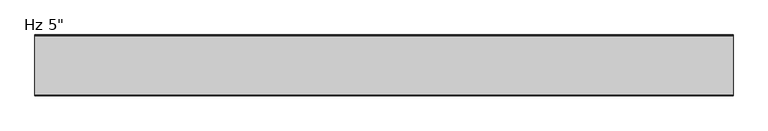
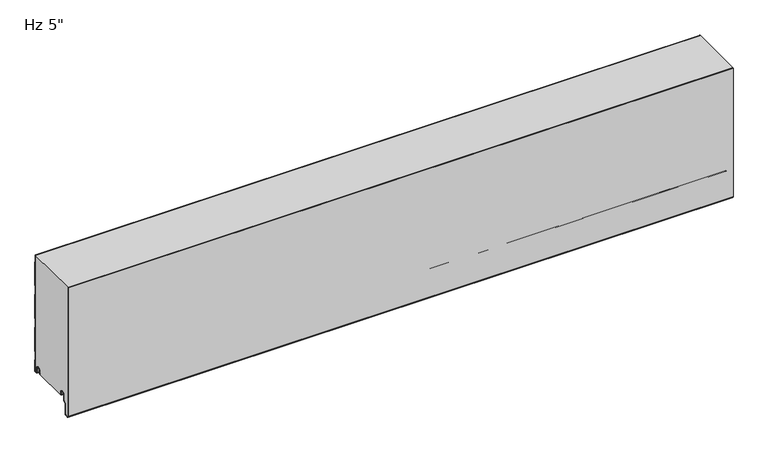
"""IFC4 building model written with IfcOpenShell, lengths in millimetres: plate geometry."""

from ifc_helpers import new_model, si_unit, point, frame, frame_2d, origin, place, context, project, spatial, polyline, circle_curve, trimmed, segment, composite_curve, outline, extrude, source, transform, mapped, element, save
from ifc_brep_helpers import plane_surface, cylinder_surface, revolved_surface, advanced_brep


def plate_81779ee4(model_context):
    return source(origin(), model_context, "Body", "SolidModel", [
        advanced_brep(
        [(-730.0, -17.0015159, 2.0313088), (-730.0, -18.0015191, 1.0313116), (-730.0, -19.0015105, 2.0313088), (-730.0, -19.0015105, 6.0315125), (-730.0, -18.0015159, 6.0315125), (-730.0, -18.0015159, 8.7237223), (-730.0, -14.7015202, 12.023718), (-730.0, -10.301529, 12.023718), (-730.0, -7.0015335, 8.7237225), (-730.0, -7.0015335, -1.6962564), (-730.0, -5.2315393, -3.4662506), (-730.0, -0.9999916, -3.4662506), (-730.0, -0.9999916, 21.034026), (-730.0, -2.2002307, 22.4196686), (-730.0, -2.2002307, 41.7948349), (-730.0, -1.0, 43.1804679), (-730.0, -1.0, 97.2338833), (-730.0, -2.2002307, 98.6195162), (-730.0, -2.2002307, 117.9946825), (-730.0, -1.0, 119.3803155), (-730.0, -1.0, 173.4337309), (-730.0, -2.2002307, 174.8193638), (-730.0, -2.2002307, 194.1945301), (-730.0, -1.0, 195.5801631), (-730.0, -1.0, 249.6335785), (-730.0, -2.2002307, 251.0192114), (-730.0, -2.2002307, 266.4), (-730.0, -1.2002307, 266.4), (-730.0, -1.2002307, 251.3920919), (-730.0, -0.3417885, 250.4010442), (-730.0, 0.0, 249.4844273), (-730.0, 0.0, 195.7293142), (-730.0, -0.3417885, 194.8126973), (-730.0, -1.2002307, 193.8216497), (-730.0, -1.2002307, 175.1922443), (-730.0, -0.3417885, 174.2011966), (-730.0, 0.0, 173.2845797), (-730.0, 0.0, 119.5294666), (-730.0, -0.3417885, 118.6128497), (-730.0, -1.2002307, 117.6218021), (-730.0, -1.2002307, 98.9923967), (-730.0, -0.3417885, 98.001349), (-730.0, 0.0, 97.0847321), (-730.0, 0.0, 43.329619), (-730.0, -0.3417885, 42.4130021), (-730.0, -1.2002307, 41.4219545), (-730.0, -1.2002307, 22.7925491), (-730.0, -0.3417885, 21.8015014), (-730.0, 0.0, 20.8847931), (-730.0, 8.4e-06, -3.0662545), (-730.0, -1.3999878, -4.4662506), (-730.0, -5.2315393, -4.4662506), (-730.0, -8.0015335, -1.6962564), (-730.0, -8.0015335, 8.7237225), (-730.0, -10.301529, 11.023718), (-730.0, -14.7015202, 11.023718), (-730.0, -17.0015159, 8.7237223), (730.0, -17.0015159, 2.0313088), (730.0, -17.0015159, 8.7237223), (730.0, -14.7015202, 11.023718), (730.0, -10.301529, 11.023718), (730.0, -8.0015335, 8.7237225), (730.0, -8.0015335, -1.6962564), (730.0, -5.2315393, -4.4662506), (730.0, -1.3999878, -4.4662506), (730.0, 8.4e-06, -3.0662545), (730.0, 8.4e-06, 20.8848845), (730.0, -0.3417885, 21.8015014), (730.0, -1.2002307, 22.7925491), (730.0, -1.2002307, 41.4219545), (730.0, -0.3417885, 42.4130021), (730.0, 0.0, 43.329619), (730.0, 0.0, 97.0847321), (730.0, -0.3417885, 98.001349), (730.0, -1.2002307, 98.9923967), (730.0, -1.2002307, 117.6218021), (730.0, -0.3417885, 118.6128497), (730.0, 0.0, 119.5294666), (730.0, 0.0, 173.2845797), (730.0, -0.3417885, 174.2011966), (730.0, -1.2002307, 175.1922443), (730.0, -1.2002307, 193.8216497), (730.0, -0.3417885, 194.8126973), (730.0, 0.0, 195.7293142), (730.0, 0.0, 249.4844273), (730.0, -0.3417885, 250.4010442), (730.0, -1.2002307, 251.3920919), (730.0, -1.2002307, 266.4), (730.0, -2.2002307, 266.4), (730.0, -2.2002307, 251.0192114), (730.0, -1.0, 249.6335785), (730.0, -1.0, 195.5801631), (730.0, -2.2002307, 194.1945301), (730.0, -2.2002307, 174.8193638), (730.0, -1.0, 173.4337309), (730.0, -1.0, 119.3803155), (730.0, -2.2002307, 117.9946825), (730.0, -2.2002307, 98.6195162), (730.0, -1.0, 97.2338833), (730.0, -1.0, 43.1804679), (730.0, -2.2002307, 41.7948349), (730.0, -2.2002307, 22.4196686), (730.0, -0.9999916, 21.034026), (730.0, -0.9999916, -3.4662506), (730.0, -5.2315393, -3.4662506), (730.0, -7.0015335, -1.6962564), (730.0, -7.0015335, 8.7237225), (730.0, -10.301529, 12.023718), (730.0, -14.7015202, 12.023718), (730.0, -18.0015159, 8.7237223), (730.0, -18.0015159, 6.0315125), (730.0, -19.0015105, 6.0315125), (730.0, -19.0015105, 2.0313088), (730.0, -18.0015192, 1.0313116)],
        [
            (0, 1, circle_curve(frame((-730.0, -18.0015132, 2.0313088), z_axis=(-1.0, 0.0, 0.0), x_axis=(0.0, 0.0, 1.0)), 0.9999973)),
            (1, 2, circle_curve(frame((-730.0, -18.0015133, 2.0313088), z_axis=(-1.0, 0.0, 0.0), x_axis=(0.0, 0.0, 1.0)), 0.9999972)),
            (2, 3),
            (3, 4),
            (4, 5),
            (5, 6, circle_curve(frame((-730.0, -14.7015202, 8.7237223), z_axis=(-1.0, 0.0, 0.0), x_axis=(0.0, 0.0, 1.0)), 3.2999957)),
            (6, 7),
            (7, 8, circle_curve(frame((-730.0, -10.301529, 8.7237225), z_axis=(-1.0, 0.0, 0.0), x_axis=(0.0, 0.0, 1.0)), 3.2999955)),
            (8, 9),
            (9, 10, circle_curve(frame((-730.0, -5.2315393, -1.6962564), z_axis=(1.0, 0.0, 0.0), x_axis=(0.0, 0.0, 1.0)), 1.7699942)),
            (10, 11),
            (11, 12),
            (12, 13),
            (13, 14),
            (14, 15),
            (15, 16),
            (16, 17),
            (17, 18),
            (18, 19),
            (19, 20),
            (20, 21),
            (21, 22),
            (22, 23),
            (23, 24),
            (24, 25),
            (25, 26),
            (26, 27),
            (27, 28),
            (28, 29),
            (29, 30, circle_curve(frame((-730.0, -1.3999972, 249.4844273), z_axis=(-1.0, 0.0, 0.0), x_axis=(0.0, 0.0, 1.0)), 1.3999972)),
            (30, 31),
            (31, 32, circle_curve(frame((-730.0, -1.3999972, 195.7293142), z_axis=(-1.0, 0.0, 0.0), x_axis=(0.0, 0.0, 1.0)), 1.3999972)),
            (32, 33),
            (33, 34),
            (34, 35),
            (35, 36, circle_curve(frame((-730.0, -1.3999972, 173.2845797), z_axis=(-1.0, 0.0, 0.0), x_axis=(0.0, 0.0, 1.0)), 1.3999972)),
            (36, 37),
            (37, 38, circle_curve(frame((-730.0, -1.3999972, 119.5294666), z_axis=(-1.0, 0.0, 0.0), x_axis=(0.0, 0.0, 1.0)), 1.3999972)),
            (38, 39),
            (39, 40),
            (40, 41),
            (41, 42, circle_curve(frame((-730.0, -1.3999972, 97.0847321), z_axis=(-1.0, 0.0, 0.0), x_axis=(0.0, 0.0, 1.0)), 1.3999972)),
            (42, 43),
            (43, 44, circle_curve(frame((-730.0, -1.3999972, 43.329619), z_axis=(-1.0, 0.0, 0.0), x_axis=(0.0, 0.0, 1.0)), 1.3999972)),
            (44, 45),
            (45, 46),
            (46, 47),
            (47, 48, circle_curve(frame((-730.0, -1.3999972, 20.8848845), z_axis=(-1.0, 0.0, 0.0), x_axis=(0.0, 0.0, 1.0)), 1.3999972)),
            (48, 49),
            (49, 50, circle_curve(frame((-730.0, -1.3999878, -3.0662545), z_axis=(-1.0, 0.0, 0.0), x_axis=(0.0, 0.0, 1.0)), 1.3999962)),
            (50, 51),
            (51, 52, circle_curve(frame((-730.0, -5.2315393, -1.6962564), z_axis=(-1.0, 0.0, 0.0), x_axis=(0.0, 0.0, 1.0)), 2.7699942)),
            (52, 53),
            (53, 54, circle_curve(frame((-730.0, -10.301529, 8.7237225), z_axis=(1.0, 0.0, 0.0), x_axis=(0.0, 0.0, 1.0)), 2.2999955)),
            (54, 55),
            (55, 56, circle_curve(frame((-730.0, -14.7015202, 8.7237223), z_axis=(1.0, 0.0, 0.0), x_axis=(0.0, 0.0, 1.0)), 2.2999957)),
            (56, 0),
            (57, 58),
            (58, 59, circle_curve(frame((730.0, -14.7015202, 8.7237223), z_axis=(-1.0, 0.0, 0.0), x_axis=(0.0, 0.0, 1.0)), 2.2999957)),
            (59, 60),
            (60, 61, circle_curve(frame((730.0, -10.301529, 8.7237225), z_axis=(-1.0, 0.0, 0.0), x_axis=(0.0, 0.0, 1.0)), 2.2999955)),
            (61, 62),
            (62, 63, circle_curve(frame((730.0, -5.2315393, -1.6962564), z_axis=(1.0, 0.0, 0.0), x_axis=(0.0, 0.0, 1.0)), 2.7699942)),
            (63, 64),
            (64, 65, circle_curve(frame((730.0, -1.3999878, -3.0662545), z_axis=(1.0, 0.0, 0.0), x_axis=(0.0, 0.0, 1.0)), 1.3999962)),
            (65, 66),
            (66, 67, circle_curve(frame((730.0, -1.3999972, 20.8848845), z_axis=(1.0, 0.0, 0.0), x_axis=(0.0, 0.0, 1.0)), 1.3999972)),
            (67, 68),
            (68, 69),
            (69, 70),
            (70, 71, circle_curve(frame((730.0, -1.3999972, 43.329619), z_axis=(1.0, 0.0, 0.0), x_axis=(0.0, 0.0, 1.0)), 1.3999972)),
            (71, 72),
            (72, 73, circle_curve(frame((730.0, -1.3999972, 97.0847321), z_axis=(1.0, 0.0, 0.0), x_axis=(0.0, 0.0, 1.0)), 1.3999972)),
            (73, 74),
            (74, 75),
            (75, 76),
            (76, 77, circle_curve(frame((730.0, -1.3999972, 119.5294666), z_axis=(1.0, 0.0, 0.0), x_axis=(0.0, 0.0, 1.0)), 1.3999972)),
            (77, 78),
            (78, 79, circle_curve(frame((730.0, -1.3999972, 173.2845797), z_axis=(1.0, 0.0, 0.0), x_axis=(0.0, 0.0, 1.0)), 1.3999972)),
            (79, 80),
            (80, 81),
            (81, 82),
            (82, 83, circle_curve(frame((730.0, -1.3999972, 195.7293142), z_axis=(1.0, 0.0, 0.0), x_axis=(0.0, 0.0, 1.0)), 1.3999972)),
            (83, 84),
            (84, 85, circle_curve(frame((730.0, -1.3999972, 249.4844273), z_axis=(1.0, 0.0, 0.0), x_axis=(0.0, 0.0, 1.0)), 1.3999972)),
            (85, 86),
            (86, 87),
            (87, 88),
            (88, 89),
            (89, 90),
            (90, 91),
            (91, 92),
            (92, 93),
            (93, 94),
            (94, 95),
            (95, 96),
            (96, 97),
            (97, 98),
            (98, 99),
            (99, 100),
            (100, 101),
            (101, 102),
            (102, 103),
            (103, 104),
            (104, 105, circle_curve(frame((730.0, -5.2315393, -1.6962564), z_axis=(-1.0, 0.0, 0.0), x_axis=(0.0, 0.0, 1.0)), 1.7699942)),
            (105, 106),
            (106, 107, circle_curve(frame((730.0, -10.301529, 8.7237225), z_axis=(1.0, 0.0, 0.0), x_axis=(0.0, 0.0, 1.0)), 3.2999955)),
            (107, 108),
            (108, 109, circle_curve(frame((730.0, -14.7015202, 8.7237223), z_axis=(1.0, 0.0, 0.0), x_axis=(0.0, 0.0, 1.0)), 3.2999957)),
            (109, 110),
            (110, 111),
            (111, 112),
            (112, 113, circle_curve(frame((730.0, -18.0015133, 2.0313088), z_axis=(1.0, 0.0, 0.0), x_axis=(0.0, 0.0, 1.0)), 0.9999972)),
            (113, 57, circle_curve(frame((730.0, -18.0015132, 2.0313088), z_axis=(1.0, 0.0, 0.0), x_axis=(0.0, 0.0, 1.0)), 0.9999973)),
            (26, 88),
            (87, 27),
            (56, 58),
            (57, 0),
            (55, 59),
            (54, 60),
            (53, 61),
            (52, 62),
            (51, 63),
            (50, 64),
            (49, 65),
            (48, 66),
            (47, 67),
            (46, 68),
            (45, 69),
            (44, 70),
            (43, 71),
            (42, 72),
            (41, 73),
            (40, 74),
            (39, 75),
            (38, 76),
            (37, 77),
            (36, 78),
            (19, 95),
            (94, 20),
            (18, 96),
            (17, 97),
            (16, 98),
            (15, 99),
            (14, 100),
            (13, 101),
            (12, 102),
            (11, 103),
            (10, 104),
            (9, 105),
            (8, 106),
            (7, 107),
            (6, 108),
            (5, 109),
            (4, 110),
            (3, 111),
            (2, 112),
            (1, 113),
            (35, 79),
            (34, 80),
            (33, 81),
            (32, 82),
            (31, 83),
            (30, 84),
            (29, 85),
            (28, 86),
            (25, 89),
            (24, 90),
            (23, 91),
            (22, 92),
            (21, 93),
        ],
        [
            plane_surface(frame((-730.0, 0.0, 533.4), z_axis=(-1.0, 0.0, 0.0), x_axis=(0.0, 1.0, 0.0))),
            plane_surface(frame((730.0, 0.0, 533.4), z_axis=(1.0, 0.0, 0.0), x_axis=(0.0, 1.0, 0.0))),
            plane_surface(frame((730.0, 10.0, 266.4), z_axis=(0.0, 0.0, 1.0), x_axis=(-1.0, 0.0, 0.0))),
            plane_surface(frame((-730.0, -17.0015159, 2.0313088), z_axis=(0.0, 1.0, 0.0), x_axis=(1.0, 0.0, 0.0))),
            revolved_surface(polyline([(730.0, -14.7015202, 11.023718), (-730.0, -14.7015202, 11.023718)]), (-730.0, -14.7015202, 8.7237223), (1.0, 0.0, 0.0)),
            plane_surface(frame((-730.0, -14.7015202, 11.023718), z_axis=(0.0, 0.0, -1.0), x_axis=(1.0, 0.0, 0.0))),
            revolved_surface(polyline([(730.0, -10.301529, 11.023717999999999), (-730.0, -10.301529, 11.023717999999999)]), (-730.0, -10.301529, 8.7237225), (1.0, 0.0, 0.0)),
            plane_surface(frame((-730.0, -8.0015335, 8.7237225), z_axis=(0.0, -1.0, 0.0), x_axis=(1.0, 0.0, 0.0))),
            cylinder_surface(frame((-730.0, -5.2315393, -1.6962564), z_axis=(-1.0, 0.0, 0.0), x_axis=(0.0, 0.0, 1.0)), 2.7699942),
            plane_surface(frame((-730.0, -5.2315393, -4.4662506), z_axis=(0.0, 0.0, -1.0), x_axis=(1.0, 0.0, 0.0))),
            cylinder_surface(frame((-730.0, -1.3999878, -3.0662545), z_axis=(-1.0, 0.0, 0.0), x_axis=(0.0, 0.0, 1.0)), 1.3999962),
            plane_surface(frame((-730.0, 8.4e-06, -3.0662545), z_axis=(0.0, 1.0, 0.0), x_axis=(1.0, 0.0, 0.0))),
            cylinder_surface(frame((-730.0, -1.3999972, 20.8848845), z_axis=(-1.0, 0.0, 0.0), x_axis=(0.0, 0.0, 1.0)), 1.3999972),
            plane_surface(frame((-730.0, -0.3417885, 21.8015014), z_axis=(0.0, 0.755864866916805, 0.6547276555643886), x_axis=(1.0, 0.0, 0.0))),
            plane_surface(frame((-730.0, -1.2002307, 32.1072518), z_axis=(0.0, 1.0, 0.0), x_axis=(1.0, 0.0, 0.0))),
            plane_surface(frame((-730.0, -1.2002307, 41.4219545), z_axis=(0.0, 0.755864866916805, -0.6547276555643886), x_axis=(1.0, 0.0, 0.0))),
            cylinder_surface(frame((-730.0, -1.3999972, 43.329619), z_axis=(-1.0, 0.0, 0.0), x_axis=(0.0, 0.0, 1.0)), 1.3999972),
            plane_surface(frame((-730.0, 0.0, 43.329619), z_axis=(0.0, 1.0, 0.0), x_axis=(1.0, 0.0, 0.0))),
            cylinder_surface(frame((-730.0, -1.3999972, 97.0847321), z_axis=(-1.0, 0.0, 0.0), x_axis=(0.0, 0.0, 1.0)), 1.3999972),
            plane_surface(frame((-730.0, -0.3417885, 98.001349), z_axis=(0.0, 0.755864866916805, 0.6547276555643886), x_axis=(1.0, 0.0, 0.0))),
            plane_surface(frame((-730.0, -1.2002307, 108.3070994), z_axis=(0.0, 1.0, 0.0), x_axis=(1.0, 0.0, 0.0))),
            plane_surface(frame((-730.0, -1.2002307, 117.6218021), z_axis=(0.0, 0.755864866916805, -0.6547276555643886), x_axis=(1.0, 0.0, 0.0))),
            cylinder_surface(frame((-730.0, -1.3999972, 119.5294666), z_axis=(-1.0, 0.0, 0.0), x_axis=(0.0, 0.0, 1.0)), 1.3999972),
            plane_surface(frame((-730.0, 0.0, 119.5294666), z_axis=(0.0, 1.0, 0.0), x_axis=(1.0, 0.0, 0.0))),
            plane_surface(frame((-730.0, -1.0, 173.4337309), z_axis=(0.0, -1.0, 0.0), x_axis=(1.0, 0.0, 0.0))),
            plane_surface(frame((-730.0, -1.0, 119.3803155), z_axis=(0.0, -0.755864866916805, 0.6547276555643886), x_axis=(1.0, 0.0, 0.0))),
            plane_surface(frame((-730.0, -2.2002307, 117.9946825), z_axis=(0.0, -1.0, 0.0), x_axis=(1.0, 0.0, 0.0))),
            plane_surface(frame((-730.0, -2.2002307, 98.6195162), z_axis=(0.0, -0.755864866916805, -0.6547276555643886), x_axis=(1.0, 0.0, 0.0))),
            plane_surface(frame((-730.0, -1.0, 97.2338833), z_axis=(0.0, -1.0, 0.0), x_axis=(1.0, 0.0, 0.0))),
            plane_surface(frame((-730.0, -1.0, 43.1804679), z_axis=(0.0, -0.755864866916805, 0.6547276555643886), x_axis=(1.0, 0.0, 0.0))),
            plane_surface(frame((-730.0, -2.2002307, 41.7948349), z_axis=(0.0, -1.0, 0.0), x_axis=(1.0, 0.0, 0.0))),
            plane_surface(frame((-730.0, -2.2002307, 22.4196686), z_axis=(0.0, -0.755864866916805, -0.6547276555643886), x_axis=(1.0, 0.0, 0.0))),
            plane_surface(frame((-730.0, -0.9999916, 21.034026), z_axis=(0.0, -1.0, 0.0), x_axis=(1.0, 0.0, 0.0))),
            plane_surface(frame((-730.0, -0.9999916, -3.4662506), z_axis=(0.0, 0.0, 1.0), x_axis=(1.0, 0.0, 0.0))),
            revolved_surface(polyline([(730.0, -5.2315393, 0.07373779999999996), (-730.0, -5.2315393, 0.07373779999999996)]), (-730.0, -5.2315393, -1.6962564), (1.0, 0.0, 0.0)),
            plane_surface(frame((-730.0, -7.0015335, -1.6962564), z_axis=(0.0, 1.0, 0.0), x_axis=(1.0, 0.0, 0.0))),
            cylinder_surface(frame((-730.0, -10.301529, 8.7237225), z_axis=(-1.0, 0.0, 0.0), x_axis=(0.0, 0.0, 1.0)), 3.2999955),
            plane_surface(frame((-730.0, -10.301529, 12.023718), z_axis=(0.0, 0.0, 1.0), x_axis=(1.0, 0.0, 0.0))),
            cylinder_surface(frame((-730.0, -14.7015202, 8.7237223), z_axis=(-1.0, 0.0, 0.0), x_axis=(0.0, 0.0, 1.0)), 3.2999957),
            plane_surface(frame((-730.0, -18.0015159, 8.7237223), z_axis=(0.0, -1.0, 0.0), x_axis=(1.0, 0.0, 0.0))),
            plane_surface(frame((-730.0, -18.0015159, 6.0315125), z_axis=(0.0, 0.0, 1.0), x_axis=(1.0, 0.0, 0.0))),
            plane_surface(frame((-730.0, -19.0015105, 6.0315125), z_axis=(0.0, -1.0, 0.0), x_axis=(1.0, 0.0, 0.0))),
            cylinder_surface(frame((-730.0, -18.0015133, 2.0313088), z_axis=(-1.0, 0.0, 0.0), x_axis=(0.0, 0.0, 1.0)), 0.9999972),
            cylinder_surface(frame((-730.0, -18.0015132, 2.0313088), z_axis=(-1.0, 0.0, 0.0), x_axis=(0.0, 0.0, 1.0)), 0.9999973),
            cylinder_surface(frame((-730.0, -1.3999972, 173.2845797), z_axis=(-1.0, 0.0, 0.0), x_axis=(0.0, 0.0, 1.0)), 1.3999972),
            plane_surface(frame((-730.0, -0.3417885, 174.2011966), z_axis=(0.0, 0.755864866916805, 0.6547276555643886), x_axis=(1.0, 0.0, 0.0))),
            plane_surface(frame((-730.0, -1.2002307, 184.506947), z_axis=(0.0, 1.0, 0.0), x_axis=(1.0, 0.0, 0.0))),
            plane_surface(frame((-730.0, -1.2002307, 193.8216497), z_axis=(0.0, 0.755864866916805, -0.6547276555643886), x_axis=(1.0, 0.0, 0.0))),
            cylinder_surface(frame((-730.0, -1.3999972, 195.7293142), z_axis=(-1.0, 0.0, 0.0), x_axis=(0.0, 0.0, 1.0)), 1.3999972),
            plane_surface(frame((-730.0, 0.0, 195.7293142), z_axis=(0.0, 1.0, 0.0), x_axis=(1.0, 0.0, 0.0))),
            cylinder_surface(frame((-730.0, -1.3999972, 249.4844273), z_axis=(-1.0, 0.0, 0.0), x_axis=(0.0, 0.0, 1.0)), 1.3999972),
            plane_surface(frame((-730.0, -0.3417885, 250.4010442), z_axis=(0.0, 0.755864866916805, 0.6547276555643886), x_axis=(1.0, 0.0, 0.0))),
            plane_surface(frame((-730.0, -1.2002307, 260.7067946), z_axis=(0.0, 1.0, 0.0), x_axis=(1.0, 0.0, 0.0))),
            plane_surface(frame((-730.0, -2.2002307, 270.3943777), z_axis=(0.0, -1.0, 0.0), x_axis=(1.0, 0.0, 0.0))),
            plane_surface(frame((-730.0, -2.2002307, 251.0192114), z_axis=(0.0, -0.755864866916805, -0.6547276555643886), x_axis=(1.0, 0.0, 0.0))),
            plane_surface(frame((-730.0, -1.0, 249.6335785), z_axis=(0.0, -1.0, 0.0), x_axis=(1.0, 0.0, 0.0))),
            plane_surface(frame((-730.0, -1.0, 195.5801631), z_axis=(0.0, -0.755864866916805, 0.6547276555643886), x_axis=(1.0, 0.0, 0.0))),
            plane_surface(frame((-730.0, -2.2002307, 194.1945301), z_axis=(0.0, -1.0, 0.0), x_axis=(1.0, 0.0, 0.0))),
            plane_surface(frame((-730.0, -2.2002307, 174.8193638), z_axis=(0.0, -0.755864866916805, -0.6547276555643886), x_axis=(1.0, 0.0, 0.0))),
        ],
        [
            (0, [[1, 2, 3, 4, 5, 6, 7, 8, 9, 10, 11, 12, 13, 14, 15, 16, 17, 18, 19, 20, 21, 22, 23, 24, 25, 26, 27, 28, 29, 30, 31, 32, 33, 34, 35, 36, 37, 38, 39, 40, 41, 42, 43, 44, 45, 46, 47, 48, 49, 50, 51, 52, 53, 54, 55, 56, 57]]),
            (1, [[58, 59, 60, 61, 62, 63, 64, 65, 66, 67, 68, 69, 70, 71, 72, 73, 74, 75, 76, 77, 78, 79, 80, 81, 82, 83, 84, 85, 86, 87, 88, 89, 90, 91, 92, 93, 94, 95, 96, 97, 98, 99, 100, 101, 102, 103, 104, 105, 106, 107, 108, 109, 110, 111, 112, 113, 114]]),
            (2, [[115, -88, 116, -27]]),
            (3, [[117, -58, 118, -57]]),
            (4, [[119, -59, -117, -56]]),
            (5, [[120, -60, -119, -55]]),
            (6, [[121, -61, -120, -54]]),
            (7, [[122, -62, -121, -53]]),
            (8, [[123, -63, -122, -52]]),
            (9, [[124, -64, -123, -51]]),
            (10, [[125, -65, -124, -50]]),
            (11, [[126, -66, -125, -49]]),
            (12, [[127, -67, -126, -48]]),
            (13, [[128, -68, -127, -47]]),
            (14, [[129, -69, -128, -46]]),
            (15, [[130, -70, -129, -45]]),
            (16, [[131, -71, -130, -44]]),
            (17, [[132, -72, -131, -43]]),
            (18, [[133, -73, -132, -42]]),
            (19, [[134, -74, -133, -41]]),
            (20, [[135, -75, -134, -40]]),
            (21, [[136, -76, -135, -39]]),
            (22, [[137, -77, -136, -38]]),
            (23, [[138, -78, -137, -37]]),
            (24, [[139, -95, 140, -20]]),
            (25, [[141, -96, -139, -19]]),
            (26, [[142, -97, -141, -18]]),
            (27, [[143, -98, -142, -17]]),
            (28, [[144, -99, -143, -16]]),
            (29, [[145, -100, -144, -15]]),
            (30, [[146, -101, -145, -14]]),
            (31, [[147, -102, -146, -13]]),
            (32, [[148, -103, -147, -12]]),
            (33, [[149, -104, -148, -11]]),
            (34, [[150, -105, -149, -10]]),
            (35, [[151, -106, -150, -9]]),
            (36, [[152, -107, -151, -8]]),
            (37, [[153, -108, -152, -7]]),
            (38, [[154, -109, -153, -6]]),
            (39, [[155, -110, -154, -5]]),
            (40, [[156, -111, -155, -4]]),
            (41, [[157, -112, -156, -3]]),
            (42, [[158, -113, -157, -2]]),
            (43, [[-118, -114, -158, -1]]),
            (44, [[159, -79, -138, -36]]),
            (45, [[160, -80, -159, -35]]),
            (46, [[161, -81, -160, -34]]),
            (47, [[162, -82, -161, -33]]),
            (48, [[163, -83, -162, -32]]),
            (49, [[164, -84, -163, -31]]),
            (50, [[165, -85, -164, -30]]),
            (51, [[166, -86, -165, -29]]),
            (52, [[-28, -116, -87, -166]]),
            (53, [[-89, -115, -26, 167]]),
            (54, [[168, -90, -167, -25]]),
            (55, [[169, -91, -168, -24]]),
            (56, [[170, -92, -169, -23]]),
            (57, [[171, -93, -170, -22]]),
            (58, [[-140, -94, -171, -21]]),
        ],
    ),
        extrude(outline(composite_curve([segment(trimmed(circle_curve(frame_2d((-123.4297607, -32.4521176)), 3.5702393), [point((-123.1184903, -36.008762))], [point((-127.0, -32.4521176))], False, "CARTESIAN"), True, "CONTINUOUS"), segment(polyline([(-127.0, -32.4521176), (-127.0, 266.4), (-125.9993606, 266.4), (-125.9993606, -32.509446)]), True, "CONTINUOUS"), segment(trimmed(circle_curve(frame_2d((-123.4297607, -32.4521176)), 2.5702393), [point((-125.9993606, -32.509446))], [point((-123.2056751, -35.0125699))], True, "CARTESIAN"), True, "CONTINUOUS"), segment(polyline([(-123.2056751, -35.0125699), (-118.2238542, -34.5765709)]), True, "CONTINUOUS"), segment(trimmed(circle_curve(frame_2d((-118.7052448, -31.9198392)), 2.6999926), [point((-118.2238542, -34.5765709))], [point((-116.0052522, -31.9198392))], True, "CARTESIAN"), True, "CONTINUOUS"), segment(polyline([(-116.0052522, -31.9198392), (-116.0052522, -9.8247096), (-110.5031811, -4.3226385)]), True, "CONTINUOUS"), segment(trimmed(circle_curve(frame_2d((-111.7052588, -3.1205608)), 1.6999946), [point((-110.5031811, -4.3226385))], [point((-110.0052642, -3.1205608))], True, "CARTESIAN"), True, "CONTINUOUS"), segment(polyline([(-110.0052642, -3.1205608), (-110.0052642, 8.6903283)]), True, "CONTINUOUS"), segment(trimmed(circle_curve(frame_2d((-106.6552689, 8.6903283)), 3.3499953), [point((-110.0052642, 8.6903283))], [point((-106.6552689, 12.0403236))], False, "CARTESIAN"), True, "CONTINUOUS"), segment(polyline([(-106.6552689, 12.0403236), (-102.2552777, 12.0403236)]), True, "CONTINUOUS"), segment(trimmed(circle_curve(frame_2d((-102.2552777, 8.6903283)), 3.3499953), [point((-102.2552777, 12.0403236))], [point((-98.9052824, 8.6903283))], False, "CARTESIAN"), True, "CONTINUOUS"), segment(polyline([(-98.9052824, 8.6903283), (-98.9052824, 5.9912173), (-97.5068035, 5.9912173), (-97.5068035, 2.2328239)]), True, "CONTINUOUS"), segment(trimmed(circle_curve(frame_2d((-98.7068002, 2.2313092)), 1.1999976), [point((-97.5068035, 2.2328239))], [point((-98.6762782, 1.0316999))], False, "CARTESIAN"), True, "CONTINUOUS"), segment(trimmed(circle_curve(frame_2d((-98.7068002, 2.2313092)), 1.1999976), [point((-98.6762782, 1.0316999))], [point((-99.9052824, 2.1710221))], False, "CARTESIAN"), True, "CONTINUOUS"), segment(polyline([(-99.9052824, 2.1710221), (-99.9052824, 8.6903283)]), True, "CONTINUOUS"), segment(trimmed(circle_curve(frame_2d((-102.2552777, 8.6903283)), 2.3499953), [point((-99.9052824, 8.6903283))], [point((-102.2552777, 11.0403236))], True, "CARTESIAN"), True, "CONTINUOUS"), segment(polyline([(-102.2552777, 11.0403236), (-106.6552689, 11.0403236)]), True, "CONTINUOUS"), segment(trimmed(circle_curve(frame_2d((-106.6552689, 8.6903283)), 2.3499953), [point((-106.6552689, 11.0403236))], [point((-109.0052642, 8.6903283))], True, "CARTESIAN"), True, "CONTINUOUS"), segment(polyline([(-109.0052642, 8.6903283), (-109.0052642, -3.1205608)]), True, "CONTINUOUS"), segment(trimmed(circle_curve(frame_2d((-111.7052588, -3.1205608)), 2.6999946), [point((-109.0052642, -3.1205608))], [point((-109.7960743, -5.0297453))], False, "CARTESIAN"), True, "CONTINUOUS"), segment(polyline([(-109.7960743, -5.0297453), (-114.6244918, -9.8581627)]), True, "CONTINUOUS"), segment(trimmed(circle_curve(frame_2d((-113.7052548, -10.7773997)), 1.2999974), [point((-114.6244918, -9.8581627))], [point((-115.0052522, -10.7773997))], True, "CARTESIAN"), True, "CONTINUOUS"), segment(polyline([(-115.0052522, -10.7773997), (-115.0052522, -31.9198392)]), True, "CONTINUOUS"), segment(trimmed(circle_curve(frame_2d((-118.7052448, -31.9198392)), 3.6999926), [point((-115.0052522, -31.9198392))], [point((-118.0944437, -35.5690675))], False, "CARTESIAN"), True, "CONTINUOUS"), segment(polyline([(-118.0944437, -35.5690675), (-123.1184903, -36.008762)]), True, "CONTINUOUS")], self_intersect=False)), frame((-730.0, 0.0, 0.0), z_axis=(1.0, 0.0, 0.0), x_axis=(0.0, 1.0, 0.0)), (0.0, 0.0, 1.0), 1460.0),
        advanced_brep(
        [(-730.0, -98.670875, 1.0316999), (-730.0, -97.5014003, 2.2328239), (-730.0, -97.5014003, 5.9912173), (-730.0, -98.8998791, 5.9912173), (-730.0, -98.8998791, 8.6903283), (-730.0, -102.2498744, 12.0403236), (-730.0, -106.6498656, 12.0403236), (-730.0, -109.9998609, 8.6903283), (-730.0, -109.9998609, -3.1205608), (-730.0, -110.4977778, -4.3226385), (-730.0, -115.9998489, -9.8247096), (-730.0, -115.9998489, -31.9198392), (-730.0, -118.2184509, -34.5765709), (-730.0, -123.2002718, -35.0125699), (-730.0, -125.9945967, -32.4521176), (-730.0, -126.0, 266.4), (-730.0, -2.2002307, 266.4), (-730.0, -2.2002307, 251.0192115), (-730.0, -1.0, 249.6335785), (-730.0, -1.0, 195.5801631), (-730.0, -2.2002307, 194.1945302), (-730.0, -2.2002307, 174.8193639), (-730.0, -1.0, 173.4337309), (-730.0, -1.0, 119.3803155), (-730.0, -2.2002307, 117.9946826), (-730.0, -2.2002307, 98.6195163), (-730.0, -1.0, 97.2338833), (-730.0, -1.0, 43.1804679), (-730.0, -2.2002307, 41.794835), (-730.0, -2.2002307, 22.4196687), (-730.0, -0.9999916, 21.034026), (-730.0, -0.9999916, -3.4662506), (-730.0, -5.2315389, -3.4662506), (-730.0, -7.0015331, -1.6962564), (-730.0, -7.0015331, 8.7237222), (-730.0, -10.301529, 12.023718), (-730.0, -14.7015202, 12.023718), (-730.0, -18.0015159, 8.7237223), (-730.0, -18.0015159, 6.0315125), (-730.0, -19.0015105, 6.0315125), (-730.0, -19.0015105, 2.0313089), (-730.0, -18.0015192, 1.0313117), (-730.0, -19.0328308, 0.0), (-730.0, -97.6391751, 0.0), (730.0, -98.670875, 1.0316999), (730.0, -97.6391751, 0.0), (730.0, -19.0328308, 0.0), (730.0, -18.0015192, 1.0313117), (730.0, -19.0015105, 2.0313089), (730.0, -19.0015105, 6.0315125), (730.0, -18.0015159, 6.0315125), (730.0, -18.0015159, 8.7237223), (730.0, -14.7015202, 12.023718), (730.0, -10.301529, 12.023718), (730.0, -7.0015331, 8.7237222), (730.0, -7.0015331, -1.6962564), (730.0, -5.2315389, -3.4662506), (730.0, -0.9999916, -3.4662506), (730.0, -0.9999916, 21.034026), (730.0, -2.2002307, 22.4196687), (730.0, -2.2002307, 41.794835), (730.0, -1.0, 43.1804679), (730.0, -1.0, 97.2338833), (730.0, -2.2002307, 98.6195163), (730.0, -2.2002307, 117.9946826), (730.0, -1.0, 119.3803155), (730.0, -1.0, 173.4337309), (730.0, -2.2002307, 174.8193639), (730.0, -2.2002307, 194.1945302), (730.0, -1.0, 195.5801631), (730.0, -1.0, 249.6335785), (730.0, -2.2002307, 251.0192115), (730.0, -2.2002307, 266.4), (730.0, -126.0, 266.4), (730.0, -126.0, -32.4521176), (730.0, -123.2002718, -35.0125699), (730.0, -118.2184509, -34.5765709), (730.0, -115.9998489, -31.9198392), (730.0, -115.9998489, -9.8247096), (730.0, -110.4977778, -4.3226385), (730.0, -109.9998609, -3.1205608), (730.0, -109.9998609, 8.6903283), (730.0, -106.6498656, 12.0403236), (730.0, -102.2498744, 12.0403236), (730.0, -98.8998791, 8.6903283), (730.0, -98.8998791, 5.9912173), (730.0, -97.5014003, 5.9912173), (730.0, -97.5014003, 2.2328239)],
        [
            (0, 1, circle_curve(frame((-730.0, -98.7013969, 2.2313092), z_axis=(1.0, 0.0, 0.0), x_axis=(0.0, 0.0, -1.0)), 1.1999976)),
            (1, 2),
            (2, 3),
            (3, 4),
            (4, 5, circle_curve(frame((-730.0, -102.2498744, 8.6903283), z_axis=(1.0, 0.0, 0.0), x_axis=(0.0, 0.0, -1.0)), 3.3499953)),
            (5, 6),
            (6, 7, circle_curve(frame((-730.0, -106.6498656, 8.6903283), z_axis=(1.0, 0.0, 0.0), x_axis=(0.0, 0.0, -1.0)), 3.3499953)),
            (7, 8),
            (8, 9, circle_curve(frame((-730.0, -111.6998555, -3.1205608), z_axis=(-1.0, 0.0, 0.0), x_axis=(0.0, 0.0, -1.0)), 1.6999946)),
            (9, 10),
            (10, 11),
            (11, 12, circle_curve(frame((-730.0, -118.6998415, -31.9198392), z_axis=(-1.0, 0.0, 0.0), x_axis=(0.0, 0.0, -1.0)), 2.6999926)),
            (12, 13),
            (13, 14, circle_curve(frame((-730.0, -123.4243575, -32.4521176), z_axis=(-1.0, 0.0, 0.0), x_axis=(0.0, 0.0, -1.0)), 2.5702393)),
            (14, 15),
            (15, 16),
            (16, 17),
            (17, 18),
            (18, 19),
            (19, 20),
            (20, 21),
            (21, 22),
            (22, 23),
            (23, 24),
            (24, 25),
            (25, 26),
            (26, 27),
            (27, 28),
            (28, 29),
            (29, 30),
            (30, 31),
            (31, 32),
            (32, 33, circle_curve(frame((-730.0, -5.2315389, -1.6962564), z_axis=(-1.0, 0.0, 0.0), x_axis=(0.0, 0.0, -1.0)), 1.7699942)),
            (33, 34),
            (34, 35, circle_curve(frame((-730.0, -10.301529, 8.7237222), z_axis=(1.0, 0.0, 0.0), x_axis=(0.0, 0.0, -1.0)), 3.2999959)),
            (35, 36),
            (36, 37, circle_curve(frame((-730.0, -14.7015202, 8.7237223), z_axis=(1.0, 0.0, 0.0), x_axis=(0.0, 0.0, -1.0)), 3.2999957)),
            (37, 38),
            (38, 39),
            (39, 40),
            (40, 41, circle_curve(frame((-730.0, -18.0015133, 2.0313089), z_axis=(1.0, 0.0, 0.0), x_axis=(0.0, 0.0, -1.0)), 0.9999972)),
            (41, 42),
            (42, 43),
            (43, 0),
            (44, 45),
            (45, 46),
            (46, 47),
            (47, 48, circle_curve(frame((730.0, -18.0015133, 2.0313089), z_axis=(-1.0, 0.0, 0.0), x_axis=(0.0, 0.0, -1.0)), 0.9999972)),
            (48, 49),
            (49, 50),
            (50, 51),
            (51, 52, circle_curve(frame((730.0, -14.7015202, 8.7237223), z_axis=(-1.0, 0.0, 0.0), x_axis=(0.0, 0.0, -1.0)), 3.2999957)),
            (52, 53),
            (53, 54, circle_curve(frame((730.0, -10.301529, 8.7237222), z_axis=(-1.0, 0.0, 0.0), x_axis=(0.0, 0.0, -1.0)), 3.2999959)),
            (54, 55),
            (55, 56, circle_curve(frame((730.0, -5.2315389, -1.6962564), z_axis=(1.0, 0.0, 0.0), x_axis=(0.0, 0.0, -1.0)), 1.7699942)),
            (56, 57),
            (57, 58),
            (58, 59),
            (59, 60),
            (60, 61),
            (61, 62),
            (62, 63),
            (63, 64),
            (64, 65),
            (65, 66),
            (66, 67),
            (67, 68),
            (68, 69),
            (69, 70),
            (70, 71),
            (71, 72),
            (72, 73),
            (73, 74),
            (74, 75, circle_curve(frame((730.0, -123.4243575, -32.4521176), z_axis=(1.0, 0.0, 0.0), x_axis=(0.0, 0.0, -1.0)), 2.5702393)),
            (75, 76),
            (76, 77, circle_curve(frame((730.0, -118.6998415, -31.9198392), z_axis=(1.0, 0.0, 0.0), x_axis=(0.0, 0.0, -1.0)), 2.6999926)),
            (77, 78),
            (78, 79),
            (79, 80, circle_curve(frame((730.0, -111.6998555, -3.1205608), z_axis=(1.0, 0.0, 0.0), x_axis=(0.0, 0.0, -1.0)), 1.6999946)),
            (80, 81),
            (81, 82, circle_curve(frame((730.0, -106.6498656, 8.6903283), z_axis=(-1.0, 0.0, 0.0), x_axis=(0.0, 0.0, -1.0)), 3.3499953)),
            (82, 83),
            (83, 84, circle_curve(frame((730.0, -102.2498744, 8.6903283), z_axis=(-1.0, 0.0, 0.0), x_axis=(0.0, 0.0, -1.0)), 3.3499953)),
            (84, 85),
            (85, 86),
            (86, 87),
            (87, 44, circle_curve(frame((730.0, -98.7013969, 2.2313092), z_axis=(-1.0, 0.0, 0.0), x_axis=(0.0, 0.0, -1.0)), 1.1999976)),
            (43, 45),
            (44, 0),
            (42, 46),
            (73, 15),
            (14, 74),
            (13, 75),
            (12, 76),
            (11, 77),
            (10, 78),
            (9, 79),
            (8, 80),
            (7, 81),
            (6, 82),
            (5, 83),
            (4, 84),
            (3, 85),
            (2, 86),
            (1, 87),
            (72, 16),
            (41, 47),
            (40, 48),
            (39, 49),
            (38, 50),
            (37, 51),
            (36, 52),
            (35, 53),
            (34, 54),
            (33, 55),
            (32, 56),
            (31, 57),
            (30, 58),
            (29, 59),
            (28, 60),
            (27, 61),
            (26, 62),
            (25, 63),
            (24, 64),
            (23, 65),
            (22, 66),
            (21, 67),
            (20, 68),
            (19, 69),
            (18, 70),
            (17, 71),
        ],
        [
            plane_surface(frame((-730.0, -126.0, 533.4), z_axis=(-1.0, 0.0, 0.0), x_axis=(0.0, -1.0, 0.0))),
            plane_surface(frame((730.0, -126.0, 533.4), z_axis=(1.0, 0.0, 0.0), x_axis=(0.0, -1.0, 0.0))),
            plane_surface(frame((-730.0, -98.670875, 1.0316999), z_axis=(0.0, -0.7071067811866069, -0.7071067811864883), x_axis=(1.0, 0.0, 0.0))),
            plane_surface(frame((-730.0, -97.6391751, 0.0), z_axis=(0.0, 0.0, -1.0), x_axis=(1.0, 0.0, 0.0))),
            plane_surface(frame((-730.0, -126.0, 1024.665622), z_axis=(0.0, -1.0, 0.0), x_axis=(1.0, 0.0, 0.0))),
            cylinder_surface(frame((-730.0, -123.4243575, -32.4521176), z_axis=(-1.0, 0.0, 0.0), x_axis=(0.0, 0.0, -1.0)), 2.5702393),
            plane_surface(frame((-730.0, -123.2002718, -35.0125699), z_axis=(0.0, 0.08718474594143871, -0.9961921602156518), x_axis=(1.0, 0.0, 0.0))),
            cylinder_surface(frame((-730.0, -118.6998415, -31.9198392), z_axis=(-1.0, 0.0, 0.0), x_axis=(0.0, 0.0, -1.0)), 2.6999926),
            plane_surface(frame((-730.0, -115.9998489, -31.9198392), z_axis=(0.0, 1.0, 0.0), x_axis=(1.0, 0.0, 0.0))),
            plane_surface(frame((-730.0, -115.9998489, -9.8247096), z_axis=(0.0, 0.7071067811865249, -0.7071067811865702), x_axis=(1.0, 0.0, 0.0))),
            cylinder_surface(frame((-730.0, -111.6998555, -3.1205608), z_axis=(-1.0, 0.0, 0.0), x_axis=(0.0, 0.0, -1.0)), 1.6999946),
            plane_surface(frame((-730.0, -109.9998609, -3.1205608), z_axis=(0.0, 1.0, 0.0), x_axis=(1.0, 0.0, 0.0))),
            revolved_surface(polyline([(730.0, -106.6498656, 5.340332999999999), (-730.0, -106.6498656, 5.340332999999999)]), (-730.0, -106.6498656, 8.6903283), (1.0, 0.0, 0.0)),
            plane_surface(frame((-730.0, -106.6498656, 12.0403236), z_axis=(0.0, 0.0, -1.0), x_axis=(1.0, 0.0, 0.0))),
            revolved_surface(polyline([(730.0, -102.2498744, 5.340332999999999), (-730.0, -102.2498744, 5.340332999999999)]), (-730.0, -102.2498744, 8.6903283), (1.0, 0.0, 0.0)),
            plane_surface(frame((-730.0, -98.8998791, 8.6903283), z_axis=(0.0, -1.0, 0.0), x_axis=(1.0, 0.0, 0.0))),
            plane_surface(frame((-730.0, -98.8998791, 5.9912173), z_axis=(0.0, 0.0, -1.0), x_axis=(1.0, 0.0, 0.0))),
            plane_surface(frame((-730.0, -97.5014003, 5.9912173), z_axis=(0.0, -1.0, 0.0), x_axis=(1.0, 0.0, 0.0))),
            revolved_surface(polyline([(730.0, -98.7013969, 1.0313116), (-730.0, -98.7013969, 1.0313116)]), (-730.0, -98.7013969, 2.2313092), (1.0, 0.0, 0.0)),
            plane_surface(frame((730.0, 10.0, 266.4), z_axis=(0.0, 0.0, 1.0), x_axis=(-1.0, 0.0, 0.0))),
            plane_surface(frame((-730.0, -19.0328308, 0.0), z_axis=(0.0, 0.7071067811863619, -0.7071067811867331), x_axis=(1.0, 0.0, 0.0))),
            revolved_surface(polyline([(730.0, -18.0015133, 1.0313116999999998), (-730.0, -18.0015133, 1.0313116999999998)]), (-730.0, -18.0015133, 2.0313089), (1.0, 0.0, 0.0)),
            plane_surface(frame((-730.0, -19.0015105, 2.0313089), z_axis=(0.0, 1.0, 0.0), x_axis=(1.0, 0.0, 0.0))),
            plane_surface(frame((-730.0, -19.0015105, 6.0315125), z_axis=(0.0, 0.0, -1.0), x_axis=(1.0, 0.0, 0.0))),
            plane_surface(frame((-730.0, -18.0015159, 6.0315125), z_axis=(0.0, 1.0, 0.0), x_axis=(1.0, 0.0, 0.0))),
            revolved_surface(polyline([(730.0, -14.7015202, 5.4237266), (-730.0, -14.7015202, 5.4237266)]), (-730.0, -14.7015202, 8.7237223), (1.0, 0.0, 0.0)),
            plane_surface(frame((-730.0, -14.7015202, 12.023718), z_axis=(0.0, 0.0, -1.0), x_axis=(1.0, 0.0, 0.0))),
            revolved_surface(polyline([(730.0, -10.301529, 5.423726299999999), (-730.0, -10.301529, 5.423726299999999)]), (-730.0, -10.301529, 8.7237222), (1.0, 0.0, 0.0)),
            plane_surface(frame((-730.0, -7.0015331, 8.7237222), z_axis=(0.0, -1.0, 0.0), x_axis=(1.0, 0.0, 0.0))),
            cylinder_surface(frame((-730.0, -5.2315389, -1.6962564), z_axis=(-1.0, 0.0, 0.0), x_axis=(0.0, 0.0, -1.0)), 1.7699942),
            plane_surface(frame((-730.0, -5.2315389, -3.4662506), z_axis=(0.0, 0.0, -1.0), x_axis=(1.0, 0.0, 0.0))),
            plane_surface(frame((-730.0, -0.9999916, -3.4662506), z_axis=(0.0, 1.0, 0.0), x_axis=(1.0, 0.0, 0.0))),
            plane_surface(frame((-730.0, -0.9999916, 21.034026), z_axis=(0.0, 0.7558648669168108, 0.6547276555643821), x_axis=(1.0, 0.0, 0.0))),
            plane_surface(frame((-730.0, -2.2002307, 22.4196687), z_axis=(0.0, 1.0, 0.0), x_axis=(1.0, 0.0, 0.0))),
            plane_surface(frame((-730.0, -2.2002307, 41.794835), z_axis=(0.0, 0.7558648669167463, -0.6547276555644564), x_axis=(1.0, 0.0, 0.0))),
            plane_surface(frame((-730.0, -1.0, 43.1804679), z_axis=(0.0, 1.0, 0.0), x_axis=(1.0, 0.0, 0.0))),
            plane_surface(frame((-730.0, -1.0, 97.2338833), z_axis=(0.0, 0.7558648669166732, 0.6547276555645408), x_axis=(1.0, 0.0, 0.0))),
            plane_surface(frame((-730.0, -2.2002307, 98.6195163), z_axis=(0.0, 1.0, 0.0), x_axis=(1.0, 0.0, 0.0))),
            plane_surface(frame((-730.0, -2.2002307, 117.9946826), z_axis=(0.0, 0.7558648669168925, -0.6547276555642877), x_axis=(1.0, 0.0, 0.0))),
            plane_surface(frame((-730.0, -1.0, 119.3803155), z_axis=(0.0, 1.0, 0.0), x_axis=(1.0, 0.0, 0.0))),
            plane_surface(frame((-730.0, -1.0, 173.4337309), z_axis=(0.0, 0.7558648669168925, 0.6547276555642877), x_axis=(1.0, 0.0, 0.0))),
            plane_surface(frame((-730.0, -2.2002307, 174.8193639), z_axis=(0.0, 1.0, 0.0), x_axis=(1.0, 0.0, 0.0))),
            plane_surface(frame((-730.0, -2.2002307, 194.1945302), z_axis=(0.0, 0.7558648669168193, -0.6547276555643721), x_axis=(1.0, 0.0, 0.0))),
            plane_surface(frame((-730.0, -1.0, 195.5801631), z_axis=(0.0, 1.0, 0.0), x_axis=(1.0, 0.0, 0.0))),
            plane_surface(frame((-730.0, -1.0, 249.6335785), z_axis=(0.0, 0.7558648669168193, 0.6547276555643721), x_axis=(1.0, 0.0, 0.0))),
            plane_surface(frame((-730.0, -2.2002307, 251.0192115), z_axis=(0.0, 1.0, 0.0), x_axis=(1.0, 0.0, 0.0))),
        ],
        [
            (0, [[1, 2, 3, 4, 5, 6, 7, 8, 9, 10, 11, 12, 13, 14, 15, 16, 17, 18, 19, 20, 21, 22, 23, 24, 25, 26, 27, 28, 29, 30, 31, 32, 33, 34, 35, 36, 37, 38, 39, 40, 41, 42, 43, 44]]),
            (1, [[45, 46, 47, 48, 49, 50, 51, 52, 53, 54, 55, 56, 57, 58, 59, 60, 61, 62, 63, 64, 65, 66, 67, 68, 69, 70, 71, 72, 73, 74, 75, 76, 77, 78, 79, 80, 81, 82, 83, 84, 85, 86, 87, 88]]),
            (2, [[89, -45, 90, -44]]),
            (3, [[-43, 91, -46, -89]]),
            (4, [[-74, 92, -15, 93]]),
            (5, [[94, -75, -93, -14]]),
            (6, [[95, -76, -94, -13]]),
            (7, [[96, -77, -95, -12]]),
            (8, [[97, -78, -96, -11]]),
            (9, [[98, -79, -97, -10]]),
            (10, [[99, -80, -98, -9]]),
            (11, [[100, -81, -99, -8]]),
            (12, [[101, -82, -100, -7]]),
            (13, [[102, -83, -101, -6]]),
            (14, [[103, -84, -102, -5]]),
            (15, [[104, -85, -103, -4]]),
            (16, [[105, -86, -104, -3]]),
            (17, [[106, -87, -105, -2]]),
            (18, [[-90, -88, -106, -1]]),
            (19, [[-92, -73, 107, -16]]),
            (20, [[108, -47, -91, -42]]),
            (21, [[109, -48, -108, -41]]),
            (22, [[110, -49, -109, -40]]),
            (23, [[111, -50, -110, -39]]),
            (24, [[112, -51, -111, -38]]),
            (25, [[113, -52, -112, -37]]),
            (26, [[114, -53, -113, -36]]),
            (27, [[115, -54, -114, -35]]),
            (28, [[116, -55, -115, -34]]),
            (29, [[117, -56, -116, -33]]),
            (30, [[118, -57, -117, -32]]),
            (31, [[119, -58, -118, -31]]),
            (32, [[120, -59, -119, -30]]),
            (33, [[121, -60, -120, -29]]),
            (34, [[122, -61, -121, -28]]),
            (35, [[123, -62, -122, -27]]),
            (36, [[124, -63, -123, -26]]),
            (37, [[125, -64, -124, -25]]),
            (38, [[126, -65, -125, -24]]),
            (39, [[127, -66, -126, -23]]),
            (40, [[128, -67, -127, -22]]),
            (41, [[129, -68, -128, -21]]),
            (42, [[130, -69, -129, -20]]),
            (43, [[131, -70, -130, -19]]),
            (44, [[132, -71, -131, -18]]),
            (45, [[-17, -107, -72, -132]]),
        ],
    ),
    ])


if __name__ == "__main__":
    model = new_model("IFC4")
    model_context = context("Model", 3, world=origin())
    ifc_project = project(units=[si_unit("LENGTHUNIT", "METRE", prefix="MILLI")], contexts=[model_context])
    site = spatial("IfcSite", under=ifc_project)
    building = spatial("IfcBuilding", under=site)
    placement = place(None, origin())
    plate_shape = plate_81779ee4(model_context)
    element("IfcPlate", 1, ObjectType="KIP-42-S-O-KP-R19-CP-Hz-FL_SL : Hz 5\"", at=placement, inside=building, context=model_context, shape_type="MappedRepresentation", body=[
        mapped(plate_shape, transform((0.0, 0.0, 0.0), x_axis=(1.0, 0.0, 0.0), y_axis=(0.0, 1.0, 0.0), z_axis=(0.0, 0.0, 1.0))),
    ])
    save(model, "model.ifc")
